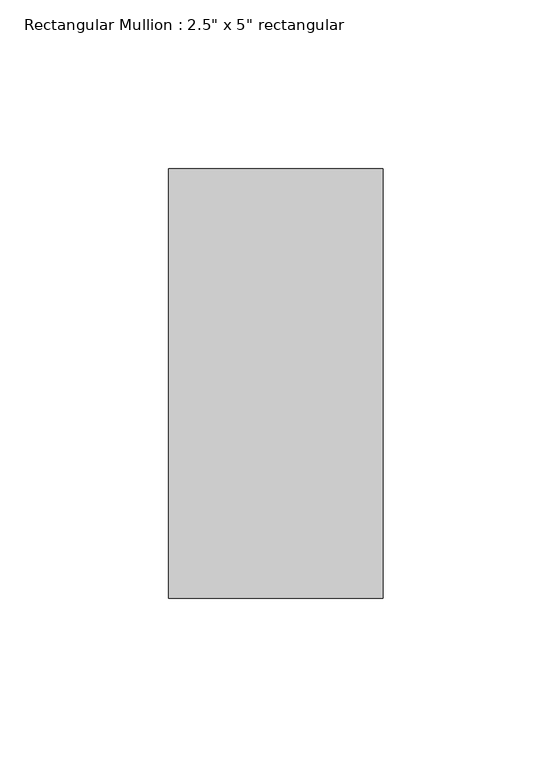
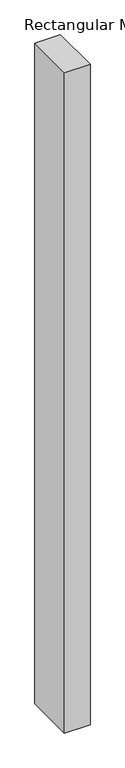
"""IFC4 building model written with IfcOpenShell, lengths in millimetres: member geometry."""

from ifc_helpers import new_model, si_unit, frame, origin, place, context, project, spatial, polyline, outline, extrude, source, transform, mapped, element, save


def member_bca00a8a(model_context):
    return source(origin(), model_context, "Body", "SweptSolid", [
        extrude(outline(polyline([(31.75, 63.5), (31.75, -63.5), (-31.75, -63.5), (-31.75, 63.5), (31.75, 63.5)])), frame((0.0, 0.0, -1733.55), z_axis=(0.0, 0.0, 1.0), x_axis=(1.0, 0.0, 0.0)), (0.0, 0.0, 1.0), 1733.55),
    ])


if __name__ == "__main__":
    model = new_model("IFC4")
    model_context = context("Model", 3, world=origin())
    ifc_project = project(units=[si_unit("LENGTHUNIT", "METRE", prefix="MILLI")], contexts=[model_context])
    site = spatial("IfcSite", under=ifc_project)
    building = spatial("IfcBuilding", under=site)
    placement = place(None, origin())
    member_shape = member_bca00a8a(model_context)
    element("IfcMember", 1, ObjectType="Rectangular Mullion : 2.5\" x 5\" rectangular", at=placement, inside=building, context=model_context, shape_type="MappedRepresentation", body=[
        mapped(member_shape, transform((0.0, 0.0, 0.0), x_axis=(1.0, 0.0, 0.0), y_axis=(0.0, 1.0, 0.0), z_axis=(0.0, 0.0, 1.0))),
    ])
    save(model, "model.ifc")
